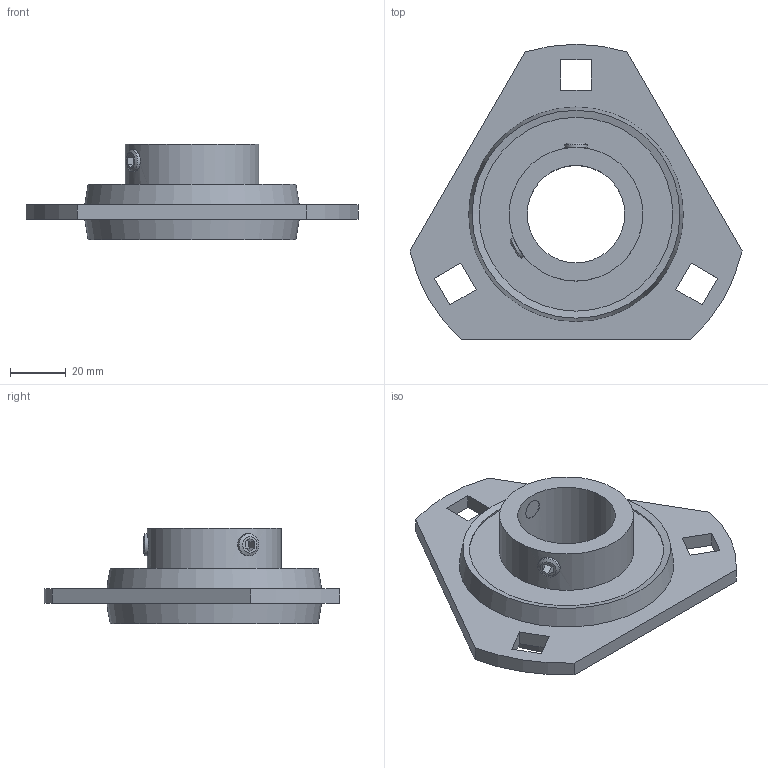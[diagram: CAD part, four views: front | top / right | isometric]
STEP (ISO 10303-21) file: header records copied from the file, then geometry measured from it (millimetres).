
FILE_DESCRIPTION((''),'2;1');
FILE_NAME('\\Ts-tgl068\j-cad-d-base\00.3DCADデータ作成フォルダ\02.フランジ形\BPFT\BPFT7.stp','2014-05-08T08:31:28',('btec_1106_2'),(''),'Autodesk Inventor 2012','Autodesk Inventor 2012','');
FILE_SCHEMA(('AUTOMOTIVE_DESIGN { 1 0 10303 214 1 1 1 1 }'));
Length unit declared in the file: millimetre
Products named in the file (3): BPFT; PFT7; シリーズB [番手=7 ul]
Assembly tree (2 placements, depth 2):
  BPFT
    PFT7
    シリーズB [番手=7 ul]
Bounding box: 119.12 x 106 x 34.4 mm (x, y, z)
Volume: 97340.5 mm3; surface area: 35260.2 mm2
Topology: 2 solids, 2 shells, 57 faces, 139 edges, 91 vertices
Faces by surface type: plane 38, cylinder 11, sphere 4, cone 4
Full cylindrical faces by diameter (mm): 8 x2, 35 x1, 48 x1
Entity records: 1748 total; most frequent: CARTESIAN_POINT 400, DIRECTION 260, ORIENTED_EDGE 236, EDGE_CURVE 118, AXIS2_PLACEMENT_3D 88, EDGE_LOOP 86, VERTEX_POINT 84, VECTOR 84
